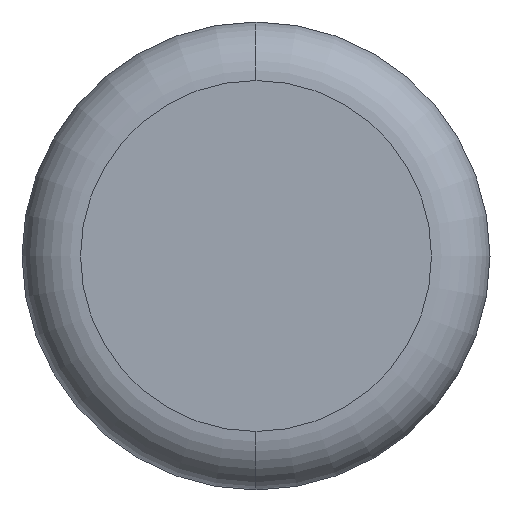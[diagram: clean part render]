
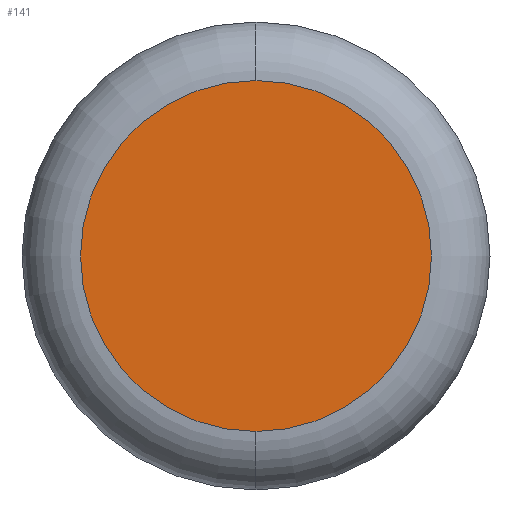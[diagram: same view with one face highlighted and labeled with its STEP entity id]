
A CAD part, left-side view. The second image highlights one B-rep face of the part: STEP entity #141.
In plain terms, the highlighted planar face has unit normal (-1, 0, 0).
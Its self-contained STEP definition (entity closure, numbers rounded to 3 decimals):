
#3 = ORIENTED_EDGE ( 'NONE', *, *, #24, .T. ) ;
#4 = FACE_OUTER_BOUND ( 'NONE', #93, .T. ) ;
#11 = DIRECTION ( 'NONE',  ( 0., 0., -1. ) ) ;
#14 = AXIS2_PLACEMENT_3D ( 'NONE', #25, #79, #195 ) ;
#19 = CARTESIAN_POINT ( 'NONE',  ( 0., 0., -6. ) ) ;
#24 = EDGE_CURVE ( 'NONE', #39, #33, #147, .T. ) ;
#25 = CARTESIAN_POINT ( 'NONE',  ( 0., 0., 0. ) ) ;
#33 = VERTEX_POINT ( 'NONE', #19 ) ;
#37 = CIRCLE ( 'NONE', #14, 6. ) ;
#39 = VERTEX_POINT ( 'NONE', #120 ) ;
#45 = ORIENTED_EDGE ( 'NONE', *, *, #106, .T. ) ;
#48 = AXIS2_PLACEMENT_3D ( 'NONE', #88, #230, #206 ) ;
#79 = DIRECTION ( 'NONE',  ( -1., 0., 0. ) ) ;
#88 = CARTESIAN_POINT ( 'NONE',  ( 0., 0., 0. ) ) ;
#93 = EDGE_LOOP ( 'NONE', ( #45, #3 ) ) ;
#105 = DIRECTION ( 'NONE',  ( -1., 0., 0. ) ) ;
#106 = EDGE_CURVE ( 'NONE', #33, #39, #37, .T. ) ;
#120 = CARTESIAN_POINT ( 'NONE',  ( 0., 0., 6. ) ) ;
#141 = ADVANCED_FACE ( 'NONE', ( #4 ), #202, .F. ) ;
#145 = CARTESIAN_POINT ( 'NONE',  ( 0., 0., 0. ) ) ;
#147 = CIRCLE ( 'NONE', #213, 6. ) ;
#195 = DIRECTION ( 'NONE',  ( 0., 0., -1. ) ) ;
#202 = PLANE ( 'NONE',  #48 ) ;
#206 = DIRECTION ( 'NONE',  ( 0., 0., -1. ) ) ;
#213 = AXIS2_PLACEMENT_3D ( 'NONE', #145, #105, #11 ) ;
#230 = DIRECTION ( 'NONE',  ( 1., 0., 0. ) ) ;
